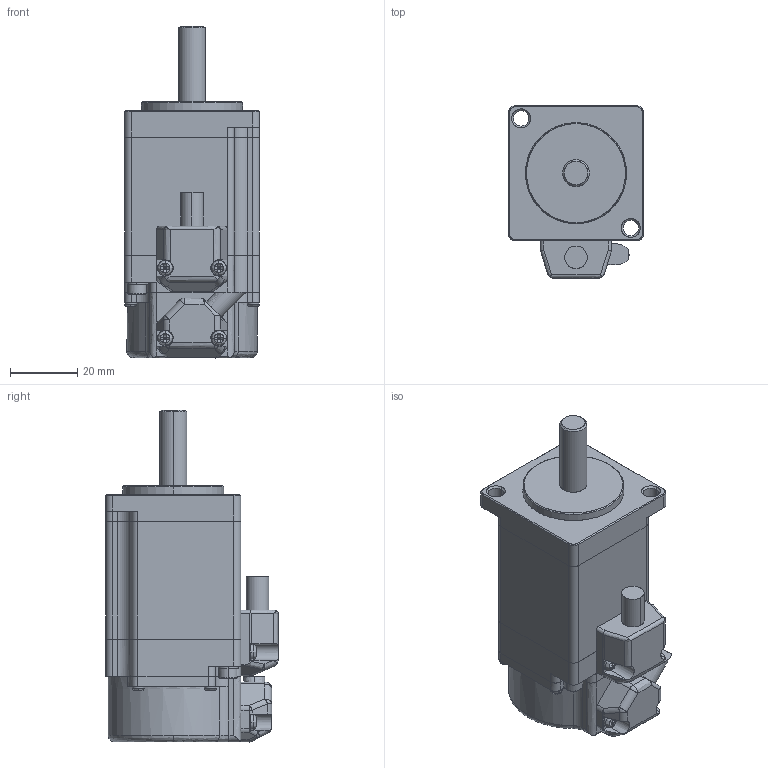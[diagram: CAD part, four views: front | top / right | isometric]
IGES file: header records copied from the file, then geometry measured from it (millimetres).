
Start section: SolidWorks IGES file using analytic representation for surfaces
Global section: file name: C:\Users\render\Documents\CAD Files\TamagawaMotors\TBL-iII-Series-14.5~80\TS4603\TS4603N1000.IGS; native system: SolidWorks 2009; preprocessor: SolidWorks 2009; author: render; date: 100804.103030; units: millimetre
Bounding box: 40 x 51.1 x 98.5 mm (x, y, z)
Surface area: 25675.6 mm2 (no closed solid volume)
Topology: 0 solids, 0 shells, 588 faces, 5006 edges, 4989 vertices
Faces by surface type: bspline 295, revolution 293
